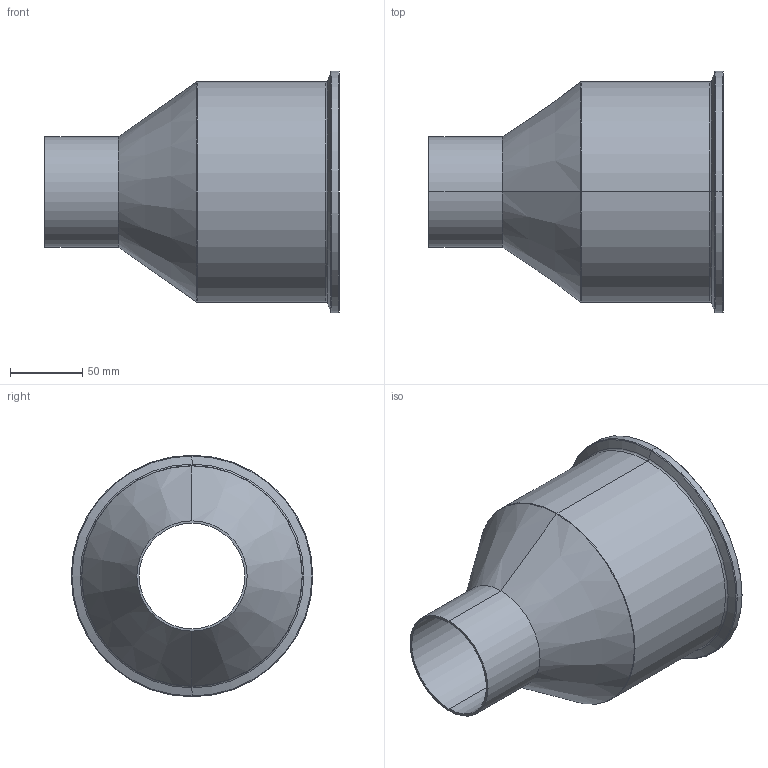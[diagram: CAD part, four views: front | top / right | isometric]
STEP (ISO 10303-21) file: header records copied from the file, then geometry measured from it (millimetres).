
FILE_DESCRIPTION (( 'STEP AP214' ), '1' );
FILE_NAME ('TE31SCW6L6.0x3.0-...STEP', '2016-05-29T12:10:00', ( 'eran' ), ( '' ), 'SwSTEP 2.0', 'SolidWorks 2016', '' );
FILE_SCHEMA (( 'AUTOMOTIVE_DESIGN' ));
Length unit declared in the file: millimetre
Products named in the file (1): TE31SCW6L6.0x3.0-..
Bounding box: 203.2 x 166.88 x 166.88 mm (x, y, z)
Volume: 1155968 mm3; surface area: 152939.8 mm2
Topology: 1 solids, 1 shells, 41 faces, 82 edges, 44 vertices
Faces by surface type: torus 14, cone 14, cylinder 10, plane 3
Entity records: 1096 total; most frequent: DIRECTION 224, CARTESIAN_POINT 168, ORIENTED_EDGE 164, AXIS2_PLACEMENT_3D 100, EDGE_CURVE 82, CIRCLE 58, VERTEX_POINT 44, EDGE_LOOP 44
